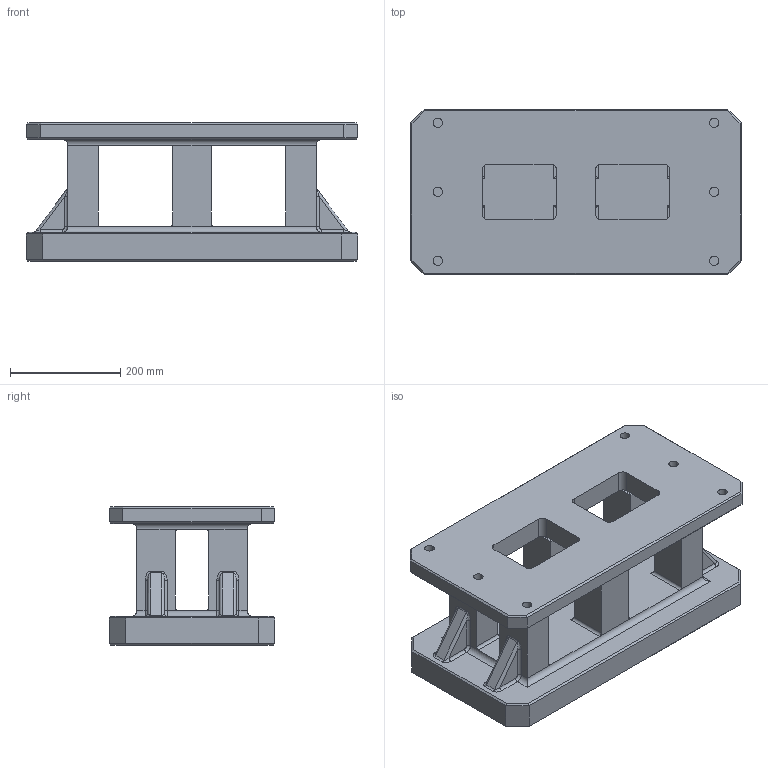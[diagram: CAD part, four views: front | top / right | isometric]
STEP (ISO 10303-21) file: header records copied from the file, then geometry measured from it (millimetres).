
FILE_DESCRIPTION((''),'2;1');
FILE_NAME('FG_WH_RISTL_RTGRDNP003','2026-05-27T15:12:14',('Admin'),(''),'CREO PARAMETRIC BY PTC INC, 2025010','CREO PARAMETRIC BY PTC INC, 2025010','');
FILE_SCHEMA(('CONFIG_CONTROL_DESIGN'));
Length unit declared in the file: millimetre
Products named in the file (1): FG_WH_RISTL_RTGRDNP003
Bounding box: 600 x 300 x 250 mm (x, y, z)
Volume: 19061128.8 mm3; surface area: 1210995.3 mm2
Topology: 1 solids, 67 shells, 972 faces, 2184 edges, 1342 vertices
Faces by surface type: cylinder 500, plane 316, cone 132, bspline 24
Entity records: 27511 total; most frequent: CARTESIAN_POINT 5749, DIRECTION 4978, ORIENTED_EDGE 3972, EDGE_CURVE 2052, AXIS2_PLACEMENT_3D 2033, VERTEX_POINT 1342, EDGE_LOOP 1192, CIRCLE 1084
